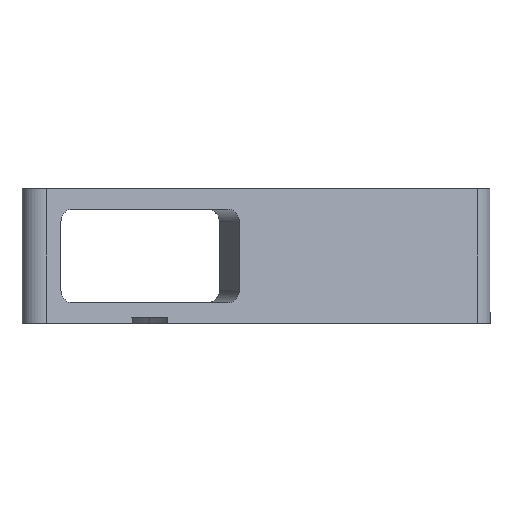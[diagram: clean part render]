
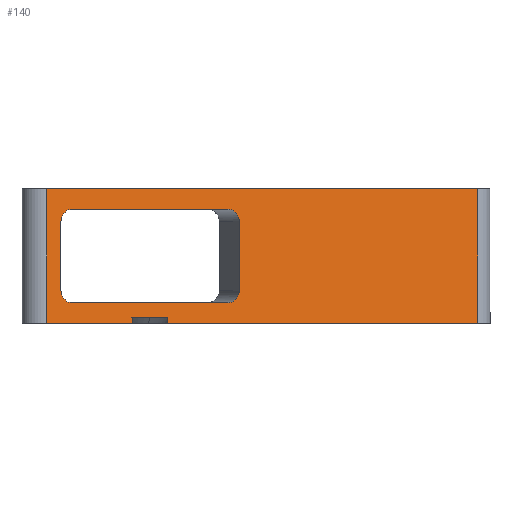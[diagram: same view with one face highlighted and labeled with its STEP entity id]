
A CAD part, front view. The second image highlights one B-rep face of the part: STEP entity #140.
In plain terms, the highlighted planar face has unit normal (0.342, -0.94, 0).
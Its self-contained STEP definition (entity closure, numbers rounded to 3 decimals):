
#47=FACE_BOUND('',#266,.F.);
#57=PLANE('',#1607);
#140=ADVANCED_FACE('',(#47,#200),#57,.T.);
#200=FACE_OUTER_BOUND('',#267,.F.);
#266=EDGE_LOOP('',(#364,#365,#366,#367,#368,#369,#370,#371));
#267=EDGE_LOOP('',(#372,#373,#374,#375,#376,#377,#378,#379,#380));
#364=ORIENTED_EDGE('',*,*,#1182,.T.);
#365=ORIENTED_EDGE('',*,*,#1183,.T.);
#366=ORIENTED_EDGE('',*,*,#1184,.T.);
#367=ORIENTED_EDGE('',*,*,#1185,.T.);
#368=ORIENTED_EDGE('',*,*,#1186,.T.);
#369=ORIENTED_EDGE('',*,*,#1187,.T.);
#370=ORIENTED_EDGE('',*,*,#1188,.T.);
#371=ORIENTED_EDGE('',*,*,#1189,.T.);
#372=ORIENTED_EDGE('',*,*,#1158,.T.);
#373=ORIENTED_EDGE('',*,*,#1166,.F.);
#374=ORIENTED_EDGE('',*,*,#1144,.F.);
#375=ORIENTED_EDGE('',*,*,#1194,.F.);
#376=ORIENTED_EDGE('',*,*,#1195,.T.);
#377=ORIENTED_EDGE('',*,*,#1196,.T.);
#378=ORIENTED_EDGE('',*,*,#1197,.T.);
#379=ORIENTED_EDGE('',*,*,#1164,.F.);
#380=ORIENTED_EDGE('',*,*,#1172,.T.);
#1090=CIRCLE('',#1579,4.);
#1091=CIRCLE('',#1580,4.);
#1092=CIRCLE('',#1581,4.);
#1093=CIRCLE('',#1582,4.);
#1144=EDGE_CURVE('',#1516,#1515,#1290,.T.);
#1158=EDGE_CURVE('',#1501,#1502,#1293,.T.);
#1164=EDGE_CURVE('',#1498,#1511,#1296,.T.);
#1166=EDGE_CURVE('',#1515,#1502,#1297,.T.);
#1172=EDGE_CURVE('',#1498,#1501,#1299,.T.);
#1182=EDGE_CURVE('',#1483,#1482,#1305,.T.);
#1183=EDGE_CURVE('',#1482,#1481,#1090,.T.);
#1184=EDGE_CURVE('',#1481,#1480,#1306,.T.);
#1185=EDGE_CURVE('',#1480,#1479,#1091,.T.);
#1186=EDGE_CURVE('',#1479,#1478,#1307,.T.);
#1187=EDGE_CURVE('',#1478,#1477,#1092,.T.);
#1188=EDGE_CURVE('',#1477,#1476,#1308,.T.);
#1189=EDGE_CURVE('',#1476,#1483,#1093,.T.);
#1194=EDGE_CURVE('',#1471,#1516,#1309,.T.);
#1195=EDGE_CURVE('',#1471,#1470,#1310,.T.);
#1196=EDGE_CURVE('',#1470,#1469,#1311,.T.);
#1197=EDGE_CURVE('',#1469,#1511,#1312,.T.);
#1290=LINE('',#2156,#1373);
#1293=LINE('',#2170,#1376);
#1296=LINE('',#2176,#1379);
#1297=LINE('',#2178,#1380);
#1299=LINE('',#2184,#1382);
#1305=LINE('',#2210,#1388);
#1306=LINE('',#2212,#1389);
#1307=LINE('',#2214,#1390);
#1308=LINE('',#2216,#1391);
#1309=LINE('',#2222,#1392);
#1310=LINE('',#2223,#1393);
#1311=LINE('',#2224,#1394);
#1312=LINE('',#2225,#1395);
#1373=VECTOR('',#1700,107.815);
#1376=VECTOR('',#1725,150.);
#1379=VECTOR('',#1734,29.815);
#1380=VECTOR('',#1737,44.);
#1382=VECTOR('',#1747,44.);
#1388=VECTOR('',#1757,22.575);
#1389=VECTOR('',#1760,54.);
#1390=VECTOR('',#1763,22.575);
#1391=VECTOR('',#1766,54.);
#1392=VECTOR('',#1777,2.);
#1393=VECTOR('',#1778,6.185);
#1394=VECTOR('',#1779,6.185);
#1395=VECTOR('',#1780,2.);
#1469=VERTEX_POINT('',#2041);
#1470=VERTEX_POINT('',#2042);
#1471=VERTEX_POINT('',#2043);
#1476=VERTEX_POINT('',#2048);
#1477=VERTEX_POINT('',#2049);
#1478=VERTEX_POINT('',#2050);
#1479=VERTEX_POINT('',#2051);
#1480=VERTEX_POINT('',#2052);
#1481=VERTEX_POINT('',#2053);
#1482=VERTEX_POINT('',#2054);
#1483=VERTEX_POINT('',#2055);
#1498=VERTEX_POINT('',#2070);
#1501=VERTEX_POINT('',#2073);
#1502=VERTEX_POINT('',#2074);
#1511=VERTEX_POINT('',#2083);
#1515=VERTEX_POINT('',#2087);
#1516=VERTEX_POINT('',#2088);
#1579=AXIS2_PLACEMENT_3D('',#2211,#1758,#1759);
#1580=AXIS2_PLACEMENT_3D('',#2213,#1761,#1762);
#1581=AXIS2_PLACEMENT_3D('',#2215,#1764,#1765);
#1582=AXIS2_PLACEMENT_3D('',#2217,#1767,#1768);
#1607=AXIS2_PLACEMENT_3D('',#2306,#1863,#1864);
#1700=DIRECTION('',(0.94,0.342,0.));
#1725=DIRECTION('',(0.94,0.342,0.));
#1734=DIRECTION('',(0.94,0.342,0.));
#1737=DIRECTION('',(0.,0.,1.));
#1747=DIRECTION('',(0.,0.,1.));
#1757=DIRECTION('',(0.,0.,1.));
#1758=DIRECTION('',(0.342,-0.94,0.));
#1759=DIRECTION('',(0.94,0.342,0.));
#1760=DIRECTION('',(-0.94,-0.342,0.));
#1761=DIRECTION('',(0.342,-0.94,0.));
#1762=DIRECTION('',(0.,0.,1.));
#1763=DIRECTION('',(0.,0.,-1.));
#1764=DIRECTION('',(0.342,-0.94,0.));
#1765=DIRECTION('',(-0.94,-0.342,0.));
#1766=DIRECTION('',(0.94,0.342,0.));
#1767=DIRECTION('',(0.342,-0.94,0.));
#1768=DIRECTION('',(0.,0.,-1.));
#1777=DIRECTION('',(0.,0.,-1.));
#1778=DIRECTION('',(-0.94,-0.342,0.));
#1779=DIRECTION('',(-0.94,-0.342,0.));
#1780=DIRECTION('',(0.,0.,-1.));
#1863=DIRECTION('',(0.342,-0.94,0.));
#1864=DIRECTION('',(0.94,0.342,0.));
#2041=CARTESIAN_POINT('',(782.668,343.948,268.876));
#2042=CARTESIAN_POINT('',(788.479,346.063,268.876));
#2043=CARTESIAN_POINT('',(794.291,348.179,268.876));
#2048=CARTESIAN_POINT('',(813.851,355.298,273.589));
#2049=CARTESIAN_POINT('',(763.108,336.829,273.589));
#2050=CARTESIAN_POINT('',(759.349,335.461,277.589));
#2051=CARTESIAN_POINT('',(759.349,335.461,300.164));
#2052=CARTESIAN_POINT('',(763.108,336.829,304.164));
#2053=CARTESIAN_POINT('',(813.851,355.298,304.164));
#2054=CARTESIAN_POINT('',(817.61,356.666,300.164));
#2055=CARTESIAN_POINT('',(817.61,356.666,277.589));
#2070=CARTESIAN_POINT('',(754.65,333.751,266.876));
#2073=CARTESIAN_POINT('',(754.65,333.751,310.876));
#2074=CARTESIAN_POINT('',(895.604,385.054,310.876));
#2083=CARTESIAN_POINT('',(782.668,343.948,266.876));
#2087=CARTESIAN_POINT('',(895.604,385.054,266.876));
#2088=CARTESIAN_POINT('',(794.291,348.179,266.876));
#2156=CARTESIAN_POINT('',(794.291,348.179,266.876));
#2170=CARTESIAN_POINT('',(754.65,333.751,310.876));
#2176=CARTESIAN_POINT('',(754.65,333.751,266.876));
#2178=CARTESIAN_POINT('',(895.604,385.054,266.876));
#2184=CARTESIAN_POINT('',(754.65,333.751,266.876));
#2210=CARTESIAN_POINT('',(817.61,356.666,277.589));
#2211=CARTESIAN_POINT('',(813.851,355.298,300.164));
#2212=CARTESIAN_POINT('',(813.851,355.298,304.164));
#2213=CARTESIAN_POINT('',(763.108,336.829,300.164));
#2214=CARTESIAN_POINT('',(759.349,335.461,300.164));
#2215=CARTESIAN_POINT('',(763.108,336.829,277.589));
#2216=CARTESIAN_POINT('',(763.108,336.829,273.589));
#2217=CARTESIAN_POINT('',(813.851,355.298,277.589));
#2222=CARTESIAN_POINT('',(794.291,348.179,268.876));
#2223=CARTESIAN_POINT('',(794.291,348.179,268.876));
#2224=CARTESIAN_POINT('',(788.479,346.063,268.876));
#2225=CARTESIAN_POINT('',(782.668,343.948,268.876));
#2306=CARTESIAN_POINT('',(753.241,333.238,265.376));
